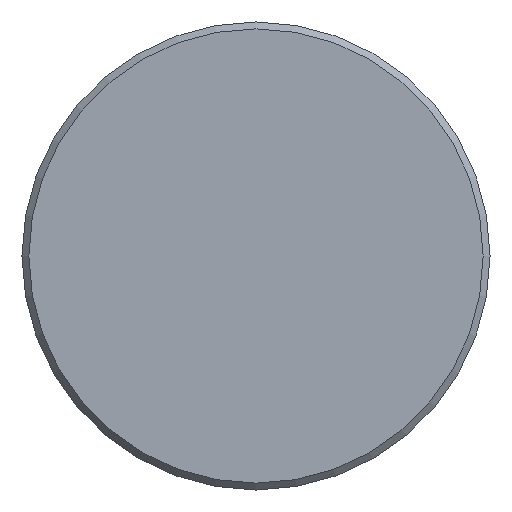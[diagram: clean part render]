
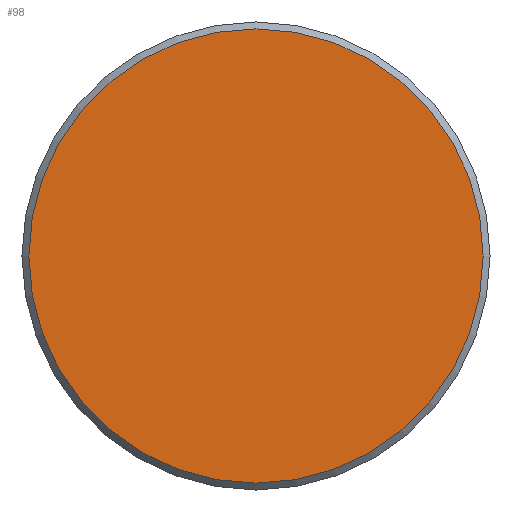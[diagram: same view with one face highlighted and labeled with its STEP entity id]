
A CAD part, front view. The second image highlights one B-rep face of the part: STEP entity #98.
In plain terms, the highlighted planar face has unit normal (0, -1, 0).
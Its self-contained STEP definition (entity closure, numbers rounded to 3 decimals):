
#16=PLANE('',#124);
#24=FACE_OUTER_BOUND('',#31,.T.);
#31=EDGE_LOOP('',(#84));
#47=CIRCLE('',#120,16.5);
#54=VERTEX_POINT('',#172);
#62=EDGE_CURVE('',#54,#54,#47,.T.);
#84=ORIENTED_EDGE('',*,*,#62,.F.);
#98=ADVANCED_FACE('',(#24),#16,.F.);
#120=AXIS2_PLACEMENT_3D('',#173,#142,#143);
#124=AXIS2_PLACEMENT_3D('',#181,#152,#153);
#142=DIRECTION('center_axis',(0.,1.,0.));
#143=DIRECTION('ref_axis',(-1.,0.,0.));
#152=DIRECTION('center_axis',(0.,1.,0.));
#153=DIRECTION('ref_axis',(-1.,0.,0.));
#172=CARTESIAN_POINT('',(16.5,-75.,0.));
#173=CARTESIAN_POINT('Origin',(0.,-75.,0.));
#181=CARTESIAN_POINT('Origin',(0.,-75.,0.));
